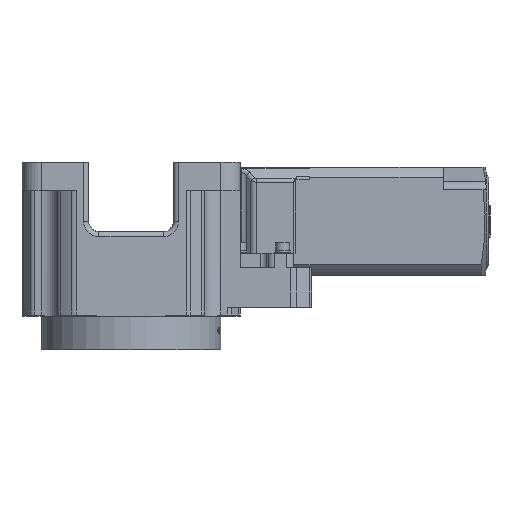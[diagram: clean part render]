
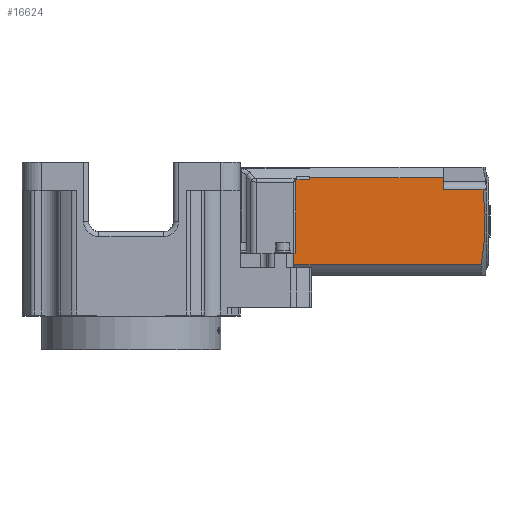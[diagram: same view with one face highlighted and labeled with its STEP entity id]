
A CAD part, left-side view. The second image highlights one B-rep face of the part: STEP entity #16624.
In plain terms, the highlighted planar face has unit normal (-1, 0, 0).
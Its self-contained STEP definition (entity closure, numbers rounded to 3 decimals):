
#12 = DIRECTION ( 'NONE',  ( 0., 1., 0. ) ) ;
#688 = CARTESIAN_POINT ( 'NONE',  ( -21., -121.7, -10.4 ) ) ;
#855 = DIRECTION ( 'NONE',  ( 0., -1., 0. ) ) ;
#1415 = CARTESIAN_POINT ( 'NONE',  ( -21., -137.178, -10.4 ) ) ;
#1832 = DIRECTION ( 'NONE',  ( 0., 0., -1. ) ) ;
#2315 = ORIENTED_EDGE ( 'NONE', *, *, #14506, .F. ) ;
#2878 = CARTESIAN_POINT ( 'NONE',  ( -21., -69.5, -6.029 ) ) ;
#3003 = EDGE_CURVE ( 'NONE', #4008, #25436, #18938, .T. ) ;
#3207 = LINE ( 'NONE', #15430, #26590 ) ;
#3405 = CIRCLE ( 'NONE', #12913, 97.77 ) ;
#3703 = CARTESIAN_POINT ( 'NONE',  ( -21., -69.5, -2. ) ) ;
#3838 = EDGE_CURVE ( 'NONE', #21573, #16307, #25930, .T. ) ;
#4008 = VERTEX_POINT ( 'NONE', #688 ) ;
#4303 = EDGE_CURVE ( 'NONE', #9252, #12246, #3207, .T. ) ;
#5093 = ORIENTED_EDGE ( 'NONE', *, *, #22081, .F. ) ;
#5576 = EDGE_CURVE ( 'NONE', #21854, #28418, #12444, .T. ) ;
#5856 = VECTOR ( 'NONE', #16123, 1000. ) ;
#5879 = DIRECTION ( 'NONE',  ( 0., 0., -1. ) ) ;
#6096 = LINE ( 'NONE', #27502, #17131 ) ;
#6257 = FACE_OUTER_BOUND ( 'NONE', #18507, .T. ) ;
#6659 = DIRECTION ( 'NONE',  ( 0., -1., 0. ) ) ;
#7182 = ORIENTED_EDGE ( 'NONE', *, *, #3838, .F. ) ;
#7224 = VECTOR ( 'NONE', #855, 1000. ) ;
#7735 = EDGE_CURVE ( 'NONE', #25436, #28418, #3405, .T. ) ;
#8125 = ORIENTED_EDGE ( 'NONE', *, *, #17919, .T. ) ;
#8462 = ORIENTED_EDGE ( 'NONE', *, *, #7735, .F. ) ;
#9042 = LINE ( 'NONE', #20361, #20050 ) ;
#9252 = VERTEX_POINT ( 'NONE', #27450 ) ;
#10155 = VECTOR ( 'NONE', #20146, 1000. ) ;
#10808 = CARTESIAN_POINT ( 'NONE',  ( -21., -40.223, -23. ) ) ;
#11170 = CARTESIAN_POINT ( 'NONE',  ( -21., -63.5, -35.5 ) ) ;
#11866 = EDGE_CURVE ( 'NONE', #21573, #21854, #9042, .T. ) ;
#12246 = VERTEX_POINT ( 'NONE', #24450 ) ;
#12263 = VECTOR ( 'NONE', #1832, 1000. ) ;
#12444 = LINE ( 'NONE', #27093, #5856 ) ;
#12761 = LINE ( 'NONE', #3703, #23726 ) ;
#12913 = AXIS2_PLACEMENT_3D ( 'NONE', #10808, #26178, #13034 ) ;
#13034 = DIRECTION ( 'NONE',  ( 0., 1., 0. ) ) ;
#13452 = CARTESIAN_POINT ( 'NONE',  ( -21., -64.25, -44. ) ) ;
#13681 = DIRECTION ( 'NONE',  ( 0., 1., 0. ) ) ;
#14506 = EDGE_CURVE ( 'NONE', #16307, #12246, #15308, .T. ) ;
#15244 = CARTESIAN_POINT ( 'NONE',  ( -21., -63.5, -39.971 ) ) ;
#15308 = LINE ( 'NONE', #13452, #10155 ) ;
#15430 = CARTESIAN_POINT ( 'NONE',  ( -21., -47.6, -6.752 ) ) ;
#16123 = DIRECTION ( 'NONE',  ( 0., -1., 0. ) ) ;
#16307 = VERTEX_POINT ( 'NONE', #21369 ) ;
#16544 = DIRECTION ( 'NONE',  ( 0., 1., 0. ) ) ;
#16546 = CARTESIAN_POINT ( 'NONE',  ( -21., -121.7, -6.029 ) ) ;
#16624 = ADVANCED_FACE ( 'NONE', ( #6257 ), #22387, .F. ) ;
#17131 = VECTOR ( 'NONE', #16544, 1000. ) ;
#17136 = CARTESIAN_POINT ( 'NONE',  ( -21., -121.7, -2. ) ) ;
#17919 = EDGE_CURVE ( 'NONE', #27553, #9252, #12761, .T. ) ;
#18507 = EDGE_LOOP ( 'NONE', ( #20135, #8125, #21607, #2315, #7182, #20026, #19379, #8462, #23514, #5093 ) ) ;
#18938 = LINE ( 'NONE', #20561, #7224 ) ;
#19379 = ORIENTED_EDGE ( 'NONE', *, *, #5576, .T. ) ;
#20026 = ORIENTED_EDGE ( 'NONE', *, *, #11866, .T. ) ;
#20050 = VECTOR ( 'NONE', #22572, 1000. ) ;
#20135 = ORIENTED_EDGE ( 'NONE', *, *, #27167, .T. ) ;
#20146 = DIRECTION ( 'NONE',  ( 0., 0., 1. ) ) ;
#20361 = CARTESIAN_POINT ( 'NONE',  ( -21., -63.5, -35.5 ) ) ;
#20561 = CARTESIAN_POINT ( 'NONE',  ( -21., -121.7, -10.4 ) ) ;
#20580 = AXIS2_PLACEMENT_3D ( 'NONE', #24612, #26827, #13681 ) ;
#21369 = CARTESIAN_POINT ( 'NONE',  ( -21., -64.25, -35.5 ) ) ;
#21573 = VERTEX_POINT ( 'NONE', #11170 ) ;
#21607 = ORIENTED_EDGE ( 'NONE', *, *, #4303, .T. ) ;
#21854 = VERTEX_POINT ( 'NONE', #15244 ) ;
#22081 = EDGE_CURVE ( 'NONE', #24670, #4008, #24614, .T. ) ;
#22387 = PLANE ( 'NONE',  #20580 ) ;
#22572 = DIRECTION ( 'NONE',  ( 0., 0., -1. ) ) ;
#23514 = ORIENTED_EDGE ( 'NONE', *, *, #3003, .F. ) ;
#23726 = VECTOR ( 'NONE', #5879, 1000. ) ;
#24257 = CARTESIAN_POINT ( 'NONE',  ( -21., -63.5, -35.5 ) ) ;
#24450 = CARTESIAN_POINT ( 'NONE',  ( -21., -64.25, -6.752 ) ) ;
#24612 = CARTESIAN_POINT ( 'NONE',  ( -21., -101.7, -2. ) ) ;
#24614 = LINE ( 'NONE', #17136, #12263 ) ;
#24670 = VERTEX_POINT ( 'NONE', #16546 ) ;
#25245 = VECTOR ( 'NONE', #6659, 1000. ) ;
#25436 = VERTEX_POINT ( 'NONE', #1415 ) ;
#25930 = LINE ( 'NONE', #24257, #25245 ) ;
#26178 = DIRECTION ( 'NONE',  ( 1., 0., 0. ) ) ;
#26590 = VECTOR ( 'NONE', #12, 1000. ) ;
#26827 = DIRECTION ( 'NONE',  ( 1., 0., 0. ) ) ;
#27093 = CARTESIAN_POINT ( 'NONE',  ( -21., -139.5, -39.971 ) ) ;
#27167 = EDGE_CURVE ( 'NONE', #24670, #27553, #6096, .T. ) ;
#27450 = CARTESIAN_POINT ( 'NONE',  ( -21., -69.5, -6.752 ) ) ;
#27502 = CARTESIAN_POINT ( 'NONE',  ( -21., -139.5, -6.029 ) ) ;
#27553 = VERTEX_POINT ( 'NONE', #2878 ) ;
#28418 = VERTEX_POINT ( 'NONE', #28485 ) ;
#28485 = CARTESIAN_POINT ( 'NONE',  ( -21., -136.509, -39.971 ) ) ;
